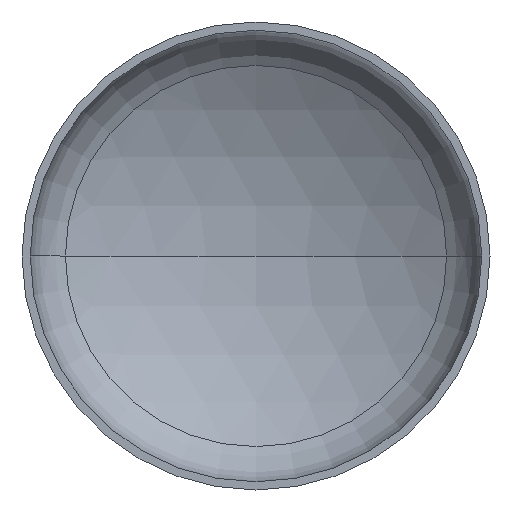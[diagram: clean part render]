
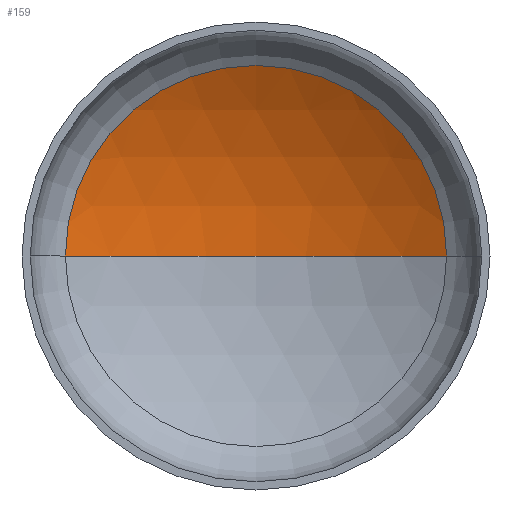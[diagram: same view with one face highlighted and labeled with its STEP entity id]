
A CAD part, front view. The second image highlights one B-rep face of the part: STEP entity #159.
In plain terms, the highlighted spherical face has radius 1360 mm.
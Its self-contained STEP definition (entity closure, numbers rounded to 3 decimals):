
#2 = CARTESIAN_POINT ( 'NONE',  ( 692.364, 313.785, 0. ) ) ;
#8 = AXIS2_PLACEMENT_3D ( 'NONE', #217, #380, #239 ) ;
#16 = AXIS2_PLACEMENT_3D ( 'NONE', #17, #318, #369 ) ;
#17 = CARTESIAN_POINT ( 'NONE',  ( 0., -856.784, 0. ) ) ;
#27 = EDGE_LOOP ( 'NONE', ( #133, #149, #126 ) ) ;
#45 = AXIS2_PLACEMENT_3D ( 'NONE', #199, #203, #200 ) ;
#59 = VERTEX_POINT ( 'NONE', #237 ) ;
#64 = CIRCLE ( 'NONE', #8, 1360. ) ;
#103 = VERTEX_POINT ( 'NONE', #367 ) ;
#126 = ORIENTED_EDGE ( 'NONE', *, *, #365, .T. ) ;
#133 = ORIENTED_EDGE ( 'NONE', *, *, #347, .F. ) ;
#147 = CARTESIAN_POINT ( 'NONE',  ( 0., 313.785, 0. ) ) ;
#149 = ORIENTED_EDGE ( 'NONE', *, *, #363, .T. ) ;
#150 = DIRECTION ( 'NONE',  ( 0., -1., 0. ) ) ;
#159 = ADVANCED_FACE ( 'NONE', ( #238 ), #244, .F. ) ;
#190 = CIRCLE ( 'NONE', #337, 692.364 ) ;
#199 = CARTESIAN_POINT ( 'NONE',  ( 0., -856.784, 0. ) ) ;
#200 = DIRECTION ( 'NONE',  ( -1., 0., 0. ) ) ;
#203 = DIRECTION ( 'NONE',  ( 0., 0., -1. ) ) ;
#207 = VERTEX_POINT ( 'NONE', #2 ) ;
#217 = CARTESIAN_POINT ( 'NONE',  ( 0., -856.784, 0. ) ) ;
#237 = CARTESIAN_POINT ( 'NONE',  ( -692.364, 313.785, 0. ) ) ;
#238 = FACE_OUTER_BOUND ( 'NONE', #27, .T. ) ;
#239 = DIRECTION ( 'NONE',  ( -1., 0., 0. ) ) ;
#244 = SPHERICAL_SURFACE ( 'NONE', #45, 1360. ) ;
#318 = DIRECTION ( 'NONE',  ( 0., 0., 1. ) ) ;
#328 = DIRECTION ( 'NONE',  ( 1., 0., 0. ) ) ;
#337 = AXIS2_PLACEMENT_3D ( 'NONE', #147, #150, #328 ) ;
#347 = EDGE_CURVE ( 'NONE', #103, #59, #381, .T. ) ;
#363 = EDGE_CURVE ( 'NONE', #103, #207, #64, .T. ) ;
#365 = EDGE_CURVE ( 'NONE', #207, #59, #190, .T. ) ;
#367 = CARTESIAN_POINT ( 'NONE',  ( 0., 503.216, 0. ) ) ;
#369 = DIRECTION ( 'NONE',  ( 1., 0., 0. ) ) ;
#380 = DIRECTION ( 'NONE',  ( 0., 0., -1. ) ) ;
#381 = CIRCLE ( 'NONE', #16, 1360. ) ;
